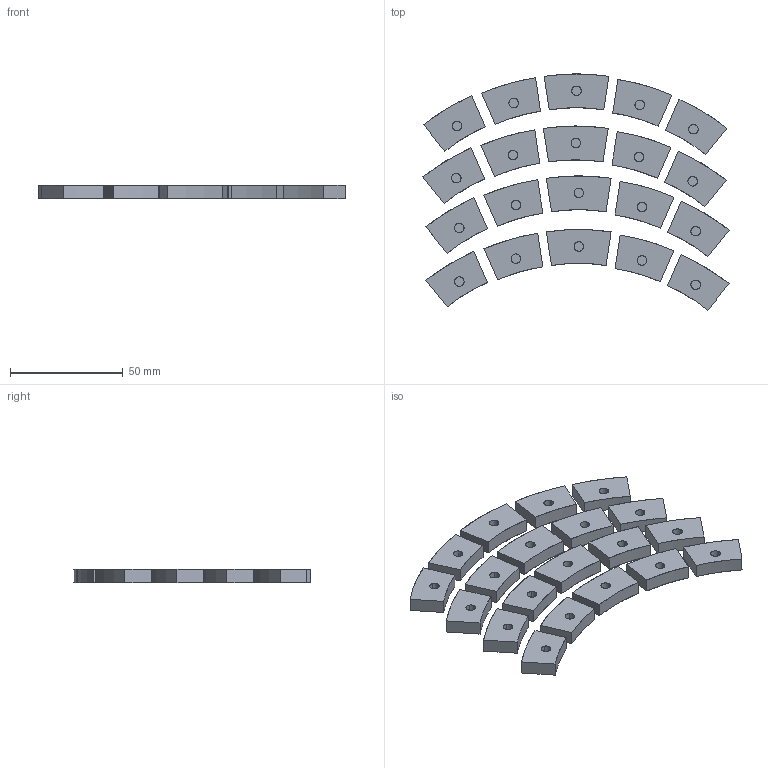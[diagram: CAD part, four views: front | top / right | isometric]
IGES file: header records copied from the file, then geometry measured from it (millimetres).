
Start section: SolidWorks IGES FILE using analytic representation for surfaces
Global section: file name: C:\Documents and Settings\MYKEUL\Mes documents\COLLEGE 200809\LES PONTS 5°\FABRICATION MAQUETTES\MAQUETTE N°5\FICHIER FAB\20 blocs.IGS; native system: SolidWorks 2001 by SolidWorks Corporation; preprocessor: Version 5.2; author: MYKEUL; date: 081022.000553; units: millimetre
Bounding box: 135.52 x 104.63 x 6 mm (x, y, z)
Surface area: 24504.4 mm2 (no closed solid volume)
Topology: 0 solids, 0 shells, 180 faces, 2160 edges, 2160 vertices
Faces by surface type: bspline 100, revolution 80
